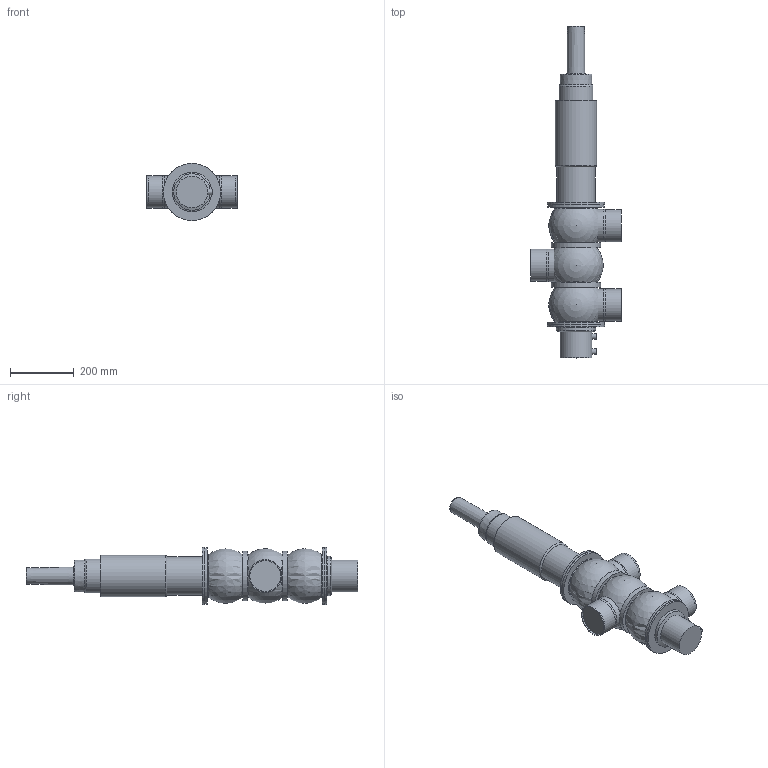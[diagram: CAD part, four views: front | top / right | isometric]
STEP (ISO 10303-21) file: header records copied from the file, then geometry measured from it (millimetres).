
FILE_DESCRIPTION(/* description */ ('Creo Elements/Direct Modeling STEP Export'),/* implementation_level */ '2;1');
FILE_NAME(/* name */ 'O:\Benutzer\Trimpop\DU4 SL\Makros\DU4 SL_VSM_stp\DU45(1-7-9)-4inch SL_VSM.stp',/* time_stamp */ '2021-10-01T14:20:54+02:00',/* author */ ('KERAMN'),/* organization */ (''),/* preprocessor_version */ 'ST-DEVELOPER v18.1',/* originating_system */ 'Autodesk Inventor 2020',/* authorisation */ '');
FILE_SCHEMA (('AUTOMOTIVE_DESIGN { 1 0 10303 214 3 1 1 }'));
Length unit declared in the file: millimetre
Products named in the file (6): DU45(1-7-9)-4inch SL_VSM; actuator_D4SL-125_yoke; DU45-4T(1-7-9)_Shrinkwrap_1; lid housing DU4-92 simplified; drain_pipe_92; D4_Prox._holder
Assembly tree (5 placements, depth 2):
  DU45(1-7-9)-4inch SL_VSM
    actuator_D4SL-125_yoke
    DU45-4T(1-7-9)_Shrinkwrap_1
    lid housing DU4-92 simplified
    drain_pipe_92
    D4_Prox._holder
Bounding box: 285 x 1045.5 x 180 mm (x, y, z)
Volume: 15613631.5 mm3; surface area: 743470.8 mm2
Topology: 5 solids, 5 shells, 93 faces, 202 edges, 150 vertices
Faces by surface type: plane 41, cylinder 33, torus 8, cone 4, sphere 4, bspline 3
Full cylindrical faces by diameter (mm): 18 x2, 60 x1, 68 x1, 97.6 x3, 100 x1, 101.6 x3, 102.6 x3, 107 x1, 112.9 x1, 115 x1, 115.1 x1, 121 x1, 124 x1, 131 x1, 133 x3, 136.8 x3, 156 x2, 180 x4
Entity records: 3321 total; most frequent: CARTESIAN_POINT 905, DIRECTION 549, ORIENTED_EDGE 392, AXIS2_PLACEMENT_3D 256, EDGE_CURVE 196, CIRCLE 154, VERTEX_POINT 150, EDGE_LOOP 130
